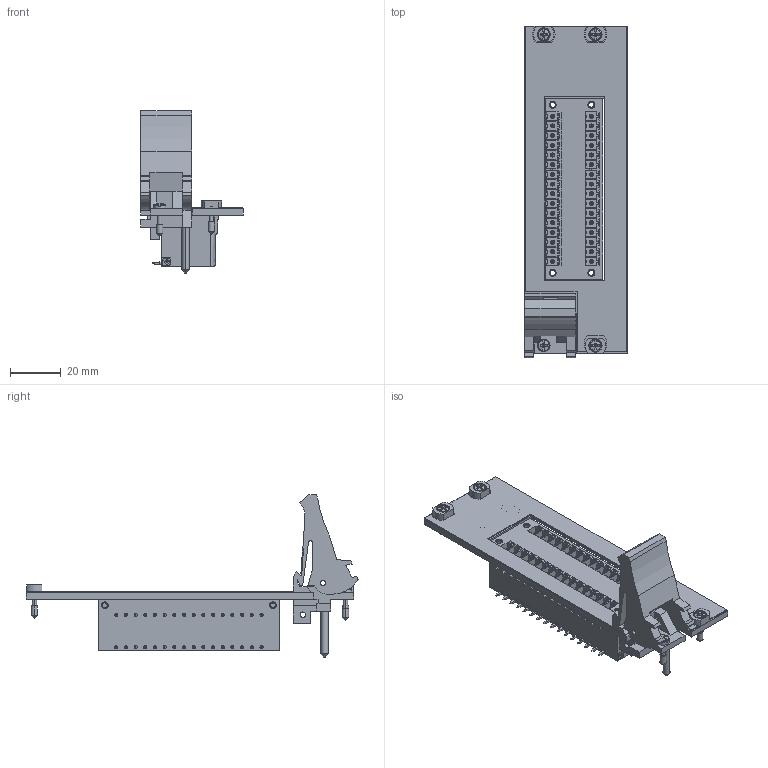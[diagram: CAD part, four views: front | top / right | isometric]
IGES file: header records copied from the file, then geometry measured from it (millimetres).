
Start section:  PTC IGES file: cu_pxi-2565.igs
Global section: file name: cu_pxi-2565.igs; native system: Pro/ENGINEER by Parametric Technology Corporation; preprocessor: 2006080; author: jjorden; organization: Unknown; date: 091231.151928; units: inch
Bounding box: 40.34 x 130.6 x 63.73 mm (x, y, z)
Surface area: 28412.3 mm2 (no closed solid volume)
Topology: 0 solids, 0 shells, 2536 faces, 12533 edges, 12509 vertices
Faces by surface type: bspline 2061, revolution 475
